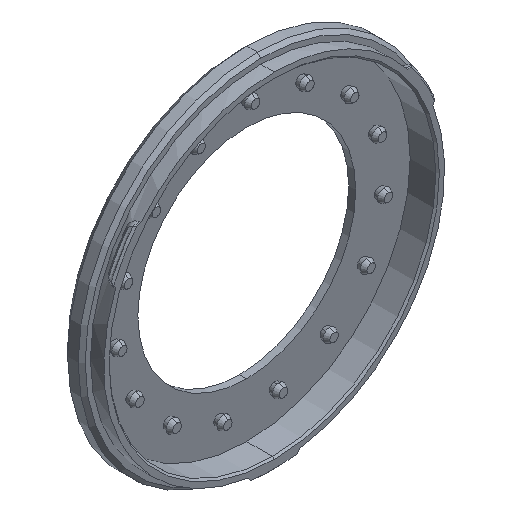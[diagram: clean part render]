
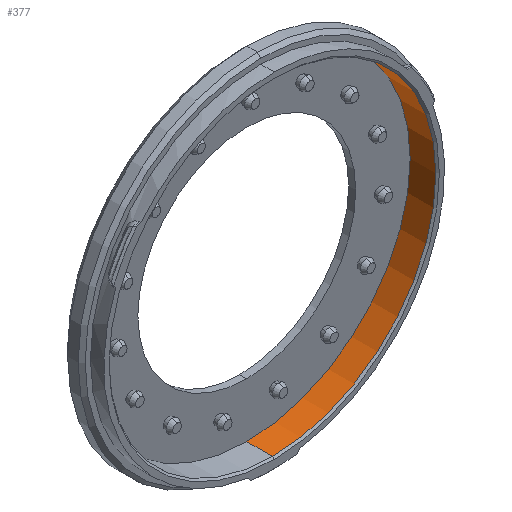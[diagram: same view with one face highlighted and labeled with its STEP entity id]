
A CAD part, isometric view. The second image highlights one B-rep face of the part: STEP entity #377.
In plain terms, the highlighted cylindrical face has radius 46.5 mm (diameter 93 mm), a partial arc.
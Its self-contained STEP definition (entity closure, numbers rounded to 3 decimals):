
#183 = CIRCLE ( 'NONE', #1387, 46.5 ) ;
#200 = DIRECTION ( 'NONE',  ( 0., 1., 0. ) ) ;
#214 = LINE ( 'NONE', #1639, #4484 ) ;
#377 = ADVANCED_FACE ( 'NONE', ( #2033 ), #1606, .F. ) ;
#383 = VERTEX_POINT ( 'NONE', #4500 ) ;
#406 = AXIS2_PLACEMENT_3D ( 'NONE', #2345, #2301, #4623 ) ;
#636 = CIRCLE ( 'NONE', #406, 46.5 ) ;
#729 = AXIS2_PLACEMENT_3D ( 'NONE', #3057, #200, #4591 ) ;
#1100 = CARTESIAN_POINT ( 'NONE',  ( 0., 27.111, 46.5 ) ) ;
#1164 = ORIENTED_EDGE ( 'NONE', *, *, #4372, .F. ) ;
#1387 = AXIS2_PLACEMENT_3D ( 'NONE', #3015, #3732, #3755 ) ;
#1539 = CARTESIAN_POINT ( 'NONE',  ( 0., 4., 46.5 ) ) ;
#1606 = CYLINDRICAL_SURFACE ( 'NONE', #729, 46.5 ) ;
#1639 = CARTESIAN_POINT ( 'NONE',  ( 0., 27.111, -46.5 ) ) ;
#2033 = FACE_OUTER_BOUND ( 'NONE', #4125, .T. ) ;
#2301 = DIRECTION ( 'NONE',  ( 0., -1., 0. ) ) ;
#2345 = CARTESIAN_POINT ( 'NONE',  ( 0., -3.3, 0. ) ) ;
#2384 = EDGE_CURVE ( 'NONE', #3780, #2608, #3613, .T. ) ;
#2408 = ORIENTED_EDGE ( 'NONE', *, *, #3452, .T. ) ;
#2608 = VERTEX_POINT ( 'NONE', #1539 ) ;
#2676 = VERTEX_POINT ( 'NONE', #3605 ) ;
#3015 = CARTESIAN_POINT ( 'NONE',  ( 0., 4., 0. ) ) ;
#3057 = CARTESIAN_POINT ( 'NONE',  ( 0., 27.111, 0. ) ) ;
#3087 = VECTOR ( 'NONE', #3274, 1000. ) ;
#3161 = DIRECTION ( 'NONE',  ( 0., 1., 0. ) ) ;
#3172 = ORIENTED_EDGE ( 'NONE', *, *, #2384, .T. ) ;
#3274 = DIRECTION ( 'NONE',  ( 0., 1., 0. ) ) ;
#3452 = EDGE_CURVE ( 'NONE', #2608, #383, #183, .T. ) ;
#3605 = CARTESIAN_POINT ( 'NONE',  ( 0., -3.3, -46.5 ) ) ;
#3613 = LINE ( 'NONE', #1100, #3087 ) ;
#3668 = CARTESIAN_POINT ( 'NONE',  ( 0., -3.3, 46.5 ) ) ;
#3732 = DIRECTION ( 'NONE',  ( 0., 1., 0. ) ) ;
#3755 = DIRECTION ( 'NONE',  ( 0., 0., 1. ) ) ;
#3780 = VERTEX_POINT ( 'NONE', #3668 ) ;
#3868 = ORIENTED_EDGE ( 'NONE', *, *, #4337, .T. ) ;
#4125 = EDGE_LOOP ( 'NONE', ( #1164, #3868, #3172, #2408 ) ) ;
#4337 = EDGE_CURVE ( 'NONE', #2676, #3780, #636, .T. ) ;
#4372 = EDGE_CURVE ( 'NONE', #2676, #383, #214, .T. ) ;
#4484 = VECTOR ( 'NONE', #3161, 1000. ) ;
#4500 = CARTESIAN_POINT ( 'NONE',  ( 0., 4., -46.5 ) ) ;
#4591 = DIRECTION ( 'NONE',  ( 0., 0., 1. ) ) ;
#4623 = DIRECTION ( 'NONE',  ( 0., 0., -1. ) ) ;
